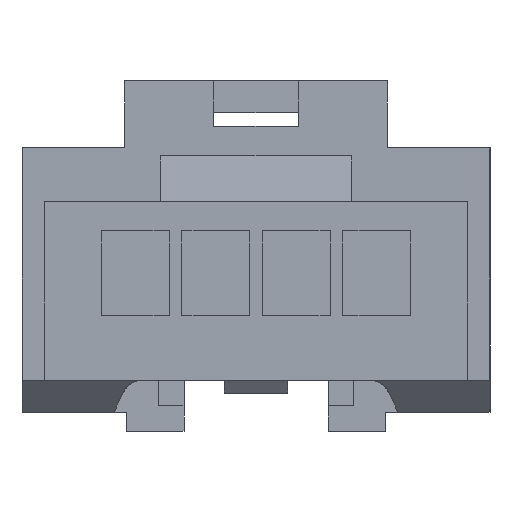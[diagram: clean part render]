
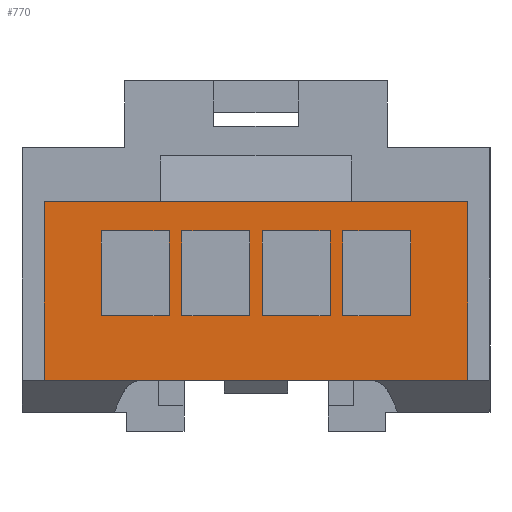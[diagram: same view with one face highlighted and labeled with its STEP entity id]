
A CAD part, front view. The second image highlights one B-rep face of the part: STEP entity #770.
In plain terms, the highlighted planar face has unit normal (0, -1, 0).
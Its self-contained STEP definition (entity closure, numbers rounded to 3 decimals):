
#614=AXIS2_PLACEMENT_3D('Plane Axis2P3D',#611,#612,#613) ;
#221=CARTESIAN_POINT('Vertex',(10.,-18.25,-5.85)) ;
#224=CARTESIAN_POINT('Line Origine',(0.,-18.25,-5.85)) ;
#228=CARTESIAN_POINT('Vertex',(-10.,-18.25,-5.85)) ;
#596=CARTESIAN_POINT('Vertex',(10.,-18.25,2.6)) ;
#599=CARTESIAN_POINT('Line Origine',(10.,-18.25,-1.625)) ;
#611=CARTESIAN_POINT('Axis2P3D Location',(-10.4,-18.25,-6.019)) ;
#616=CARTESIAN_POINT('Line Origine',(-10.,-18.25,-1.625)) ;
#620=CARTESIAN_POINT('Vertex',(-10.,-18.25,2.6)) ;
#623=CARTESIAN_POINT('Line Origine',(0.,-18.25,2.6)) ;
#634=CARTESIAN_POINT('Line Origine',(-5.7,-18.25,1.21)) ;
#638=CARTESIAN_POINT('Vertex',(-4.1,-18.25,1.21)) ;
#640=CARTESIAN_POINT('Vertex',(-7.3,-18.25,1.21)) ;
#643=CARTESIAN_POINT('Line Origine',(-4.1,-18.25,-0.79)) ;
#647=CARTESIAN_POINT('Vertex',(-4.1,-18.25,-2.79)) ;
#650=CARTESIAN_POINT('Line Origine',(-5.7,-18.25,-2.79)) ;
#654=CARTESIAN_POINT('Vertex',(-7.3,-18.25,-2.79)) ;
#657=CARTESIAN_POINT('Line Origine',(-7.3,-18.25,-0.79)) ;
#668=CARTESIAN_POINT('Line Origine',(-1.9,-18.25,1.21)) ;
#672=CARTESIAN_POINT('Vertex',(-0.3,-18.25,1.21)) ;
#674=CARTESIAN_POINT('Vertex',(-3.5,-18.25,1.21)) ;
#677=CARTESIAN_POINT('Line Origine',(-0.3,-18.25,-0.79)) ;
#681=CARTESIAN_POINT('Vertex',(-0.3,-18.25,-2.79)) ;
#684=CARTESIAN_POINT('Line Origine',(-1.9,-18.25,-2.79)) ;
#688=CARTESIAN_POINT('Vertex',(-3.5,-18.25,-2.79)) ;
#691=CARTESIAN_POINT('Line Origine',(-3.5,-18.25,-0.79)) ;
#702=CARTESIAN_POINT('Line Origine',(1.9,-18.25,1.21)) ;
#706=CARTESIAN_POINT('Vertex',(3.5,-18.25,1.21)) ;
#708=CARTESIAN_POINT('Vertex',(0.3,-18.25,1.21)) ;
#711=CARTESIAN_POINT('Line Origine',(3.5,-18.25,-0.79)) ;
#715=CARTESIAN_POINT('Vertex',(3.5,-18.25,-2.79)) ;
#718=CARTESIAN_POINT('Line Origine',(1.9,-18.25,-2.79)) ;
#722=CARTESIAN_POINT('Vertex',(0.3,-18.25,-2.79)) ;
#725=CARTESIAN_POINT('Line Origine',(0.3,-18.25,-0.79)) ;
#736=CARTESIAN_POINT('Line Origine',(5.7,-18.25,1.21)) ;
#740=CARTESIAN_POINT('Vertex',(7.3,-18.25,1.21)) ;
#742=CARTESIAN_POINT('Vertex',(4.1,-18.25,1.21)) ;
#745=CARTESIAN_POINT('Line Origine',(7.3,-18.25,-0.79)) ;
#749=CARTESIAN_POINT('Vertex',(7.3,-18.25,-2.79)) ;
#752=CARTESIAN_POINT('Line Origine',(5.7,-18.25,-2.79)) ;
#756=CARTESIAN_POINT('Vertex',(4.1,-18.25,-2.79)) ;
#759=CARTESIAN_POINT('Line Origine',(4.1,-18.25,-0.79)) ;
#225=DIRECTION('Vector Direction',(-1.,0.,0.)) ;
#600=DIRECTION('Vector Direction',(0.,0.,-1.)) ;
#612=DIRECTION('Axis2P3D Direction',(0.,-1.,0.)) ;
#613=DIRECTION('Axis2P3D XDirection',(1.,0.,0.)) ;
#617=DIRECTION('Vector Direction',(0.,0.,1.)) ;
#624=DIRECTION('Vector Direction',(1.,0.,0.)) ;
#635=DIRECTION('Vector Direction',(1.,0.,0.)) ;
#644=DIRECTION('Vector Direction',(0.,0.,1.)) ;
#651=DIRECTION('Vector Direction',(-1.,0.,0.)) ;
#658=DIRECTION('Vector Direction',(0.,0.,-1.)) ;
#669=DIRECTION('Vector Direction',(1.,0.,0.)) ;
#678=DIRECTION('Vector Direction',(0.,0.,1.)) ;
#685=DIRECTION('Vector Direction',(-1.,0.,0.)) ;
#692=DIRECTION('Vector Direction',(0.,0.,-1.)) ;
#703=DIRECTION('Vector Direction',(1.,0.,0.)) ;
#712=DIRECTION('Vector Direction',(0.,0.,1.)) ;
#719=DIRECTION('Vector Direction',(-1.,0.,0.)) ;
#726=DIRECTION('Vector Direction',(0.,0.,-1.)) ;
#737=DIRECTION('Vector Direction',(1.,0.,0.)) ;
#746=DIRECTION('Vector Direction',(0.,0.,1.)) ;
#753=DIRECTION('Vector Direction',(-1.,0.,0.)) ;
#760=DIRECTION('Vector Direction',(0.,0.,-1.)) ;
#226=VECTOR('Line Direction',#225,1.) ;
#601=VECTOR('Line Direction',#600,1.) ;
#618=VECTOR('Line Direction',#617,1.) ;
#625=VECTOR('Line Direction',#624,1.) ;
#636=VECTOR('Line Direction',#635,1.) ;
#645=VECTOR('Line Direction',#644,1.) ;
#652=VECTOR('Line Direction',#651,1.) ;
#659=VECTOR('Line Direction',#658,1.) ;
#670=VECTOR('Line Direction',#669,1.) ;
#679=VECTOR('Line Direction',#678,1.) ;
#686=VECTOR('Line Direction',#685,1.) ;
#693=VECTOR('Line Direction',#692,1.) ;
#704=VECTOR('Line Direction',#703,1.) ;
#713=VECTOR('Line Direction',#712,1.) ;
#720=VECTOR('Line Direction',#719,1.) ;
#727=VECTOR('Line Direction',#726,1.) ;
#738=VECTOR('Line Direction',#737,1.) ;
#747=VECTOR('Line Direction',#746,1.) ;
#754=VECTOR('Line Direction',#753,1.) ;
#761=VECTOR('Line Direction',#760,1.) ;
#629=ORIENTED_EDGE('',*,*,#622,.F.) ;
#630=ORIENTED_EDGE('',*,*,#230,.F.) ;
#631=ORIENTED_EDGE('',*,*,#603,.F.) ;
#632=ORIENTED_EDGE('',*,*,#627,.F.) ;
#663=ORIENTED_EDGE('',*,*,#642,.F.) ;
#664=ORIENTED_EDGE('',*,*,#649,.F.) ;
#665=ORIENTED_EDGE('',*,*,#656,.F.) ;
#666=ORIENTED_EDGE('',*,*,#661,.F.) ;
#697=ORIENTED_EDGE('',*,*,#676,.F.) ;
#698=ORIENTED_EDGE('',*,*,#683,.F.) ;
#699=ORIENTED_EDGE('',*,*,#690,.F.) ;
#700=ORIENTED_EDGE('',*,*,#695,.F.) ;
#731=ORIENTED_EDGE('',*,*,#710,.F.) ;
#732=ORIENTED_EDGE('',*,*,#717,.F.) ;
#733=ORIENTED_EDGE('',*,*,#724,.F.) ;
#734=ORIENTED_EDGE('',*,*,#729,.F.) ;
#765=ORIENTED_EDGE('',*,*,#744,.F.) ;
#766=ORIENTED_EDGE('',*,*,#751,.F.) ;
#767=ORIENTED_EDGE('',*,*,#758,.F.) ;
#768=ORIENTED_EDGE('',*,*,#763,.F.) ;
#667=FACE_BOUND('',#662,.T.) ;
#701=FACE_BOUND('',#696,.T.) ;
#735=FACE_BOUND('',#730,.T.) ;
#769=FACE_BOUND('',#764,.T.) ;
#770=ADVANCED_FACE('R',(#633,#667,#701,#735,#769),#615,.T.) ;
#230=EDGE_CURVE('',#222,#229,#227,.T.) ;
#603=EDGE_CURVE('',#597,#222,#602,.T.) ;
#622=EDGE_CURVE('',#229,#621,#619,.T.) ;
#627=EDGE_CURVE('',#621,#597,#626,.T.) ;
#642=EDGE_CURVE('',#639,#641,#637,.F.) ;
#649=EDGE_CURVE('',#648,#639,#646,.T.) ;
#656=EDGE_CURVE('',#655,#648,#653,.F.) ;
#661=EDGE_CURVE('',#641,#655,#660,.T.) ;
#676=EDGE_CURVE('',#673,#675,#671,.F.) ;
#683=EDGE_CURVE('',#682,#673,#680,.T.) ;
#690=EDGE_CURVE('',#689,#682,#687,.F.) ;
#695=EDGE_CURVE('',#675,#689,#694,.T.) ;
#710=EDGE_CURVE('',#707,#709,#705,.F.) ;
#717=EDGE_CURVE('',#716,#707,#714,.T.) ;
#724=EDGE_CURVE('',#723,#716,#721,.F.) ;
#729=EDGE_CURVE('',#709,#723,#728,.T.) ;
#744=EDGE_CURVE('',#741,#743,#739,.F.) ;
#751=EDGE_CURVE('',#750,#741,#748,.T.) ;
#758=EDGE_CURVE('',#757,#750,#755,.F.) ;
#763=EDGE_CURVE('',#743,#757,#762,.T.) ;
#628=EDGE_LOOP('',(#629,#630,#631,#632)) ;
#662=EDGE_LOOP('',(#663,#664,#665,#666)) ;
#696=EDGE_LOOP('',(#697,#698,#699,#700)) ;
#730=EDGE_LOOP('',(#731,#732,#733,#734)) ;
#764=EDGE_LOOP('',(#765,#766,#767,#768)) ;
#633=FACE_OUTER_BOUND('',#628,.T.) ;
#227=LINE('Line',#224,#226) ;
#602=LINE('Line',#599,#601) ;
#619=LINE('Line',#616,#618) ;
#626=LINE('Line',#623,#625) ;
#637=LINE('Line',#634,#636) ;
#646=LINE('Line',#643,#645) ;
#653=LINE('Line',#650,#652) ;
#660=LINE('Line',#657,#659) ;
#671=LINE('Line',#668,#670) ;
#680=LINE('Line',#677,#679) ;
#687=LINE('Line',#684,#686) ;
#694=LINE('Line',#691,#693) ;
#705=LINE('Line',#702,#704) ;
#714=LINE('Line',#711,#713) ;
#721=LINE('Line',#718,#720) ;
#728=LINE('Line',#725,#727) ;
#739=LINE('Line',#736,#738) ;
#748=LINE('Line',#745,#747) ;
#755=LINE('Line',#752,#754) ;
#762=LINE('Line',#759,#761) ;
#615=PLANE('',#614) ;
#222=VERTEX_POINT('',#221) ;
#229=VERTEX_POINT('',#228) ;
#597=VERTEX_POINT('',#596) ;
#621=VERTEX_POINT('',#620) ;
#639=VERTEX_POINT('',#638) ;
#641=VERTEX_POINT('',#640) ;
#648=VERTEX_POINT('',#647) ;
#655=VERTEX_POINT('',#654) ;
#673=VERTEX_POINT('',#672) ;
#675=VERTEX_POINT('',#674) ;
#682=VERTEX_POINT('',#681) ;
#689=VERTEX_POINT('',#688) ;
#707=VERTEX_POINT('',#706) ;
#709=VERTEX_POINT('',#708) ;
#716=VERTEX_POINT('',#715) ;
#723=VERTEX_POINT('',#722) ;
#741=VERTEX_POINT('',#740) ;
#743=VERTEX_POINT('',#742) ;
#750=VERTEX_POINT('',#749) ;
#757=VERTEX_POINT('',#756) ;
